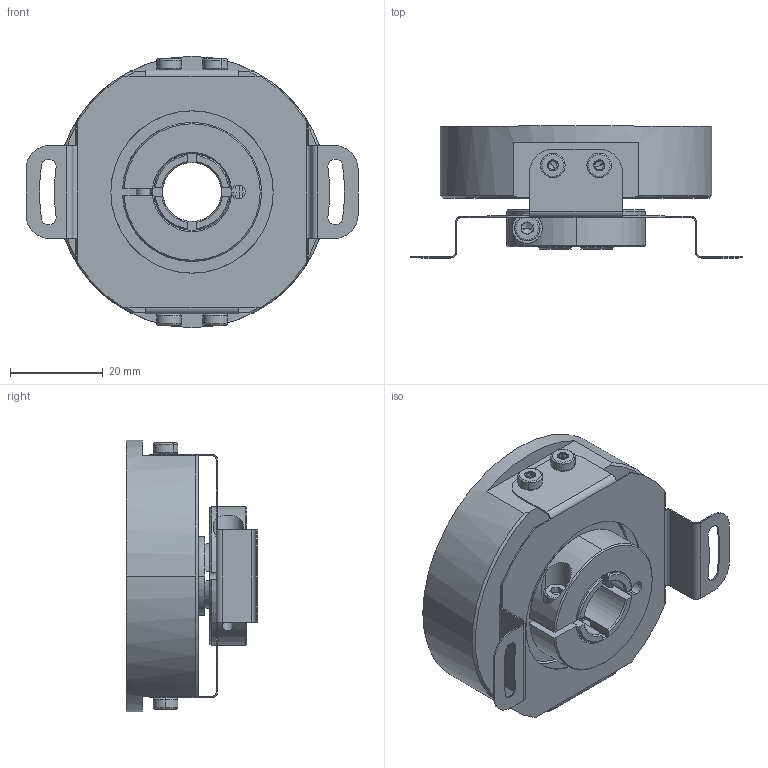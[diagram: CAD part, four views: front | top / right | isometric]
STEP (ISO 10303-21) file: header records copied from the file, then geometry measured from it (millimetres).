
FILE_DESCRIPTION (( 'STEP AP214' ), '1' );
FILE_NAME ('drawing-ucd-htps-q5b-n.STEP', '2017-05-19T12:59:02', ( '' ), ( '' ), 'SwSTEP 2.0', 'SolidWorks 2017', '' );
FILE_SCHEMA (( 'AUTOMOTIVE_DESIGN' ));
Length unit declared in the file: millimetre
Products named in the file (1): drawing-ucd-htps-q5b-n
Bounding box: 71.57 x 28.4 x 58.5 mm (x, y, z)
Volume: 40203.4 mm3; surface area: 29823.3 mm2
Topology: 24 solids, 24 shells, 1048 faces, 2499 edges, 1491 vertices
Faces by surface type: cone 345, cylinder 263, plane 260, bspline 136, torus 44
Entity records: 48290 total; most frequent: CARTESIAN_POINT 12892, DIRECTION 4941, ORIENTED_EDGE 4898, EDGE_CURVE 2449, AXIS2_PLACEMENT_3D 1927, VERTEX_POINT 1491, EDGE_LOOP 1130, LINE 1087
